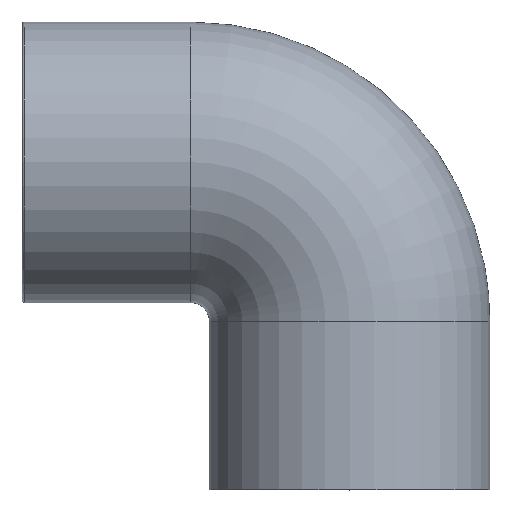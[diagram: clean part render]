
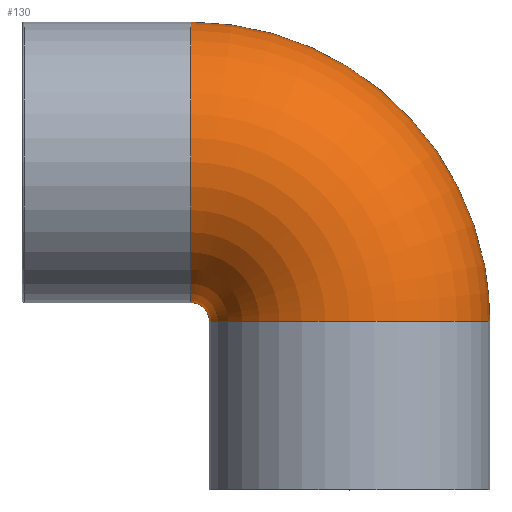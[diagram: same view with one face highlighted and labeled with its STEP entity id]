
A CAD part, top view. The second image highlights one B-rep face of the part: STEP entity #130.
In plain terms, the highlighted toroidal (fillet/blend) face has major radius 17 mm and minor radius 15 mm.
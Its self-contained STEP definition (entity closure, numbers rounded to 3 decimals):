
#28=FACE_BOUND('',#56,.T.);
#39=FACE_OUTER_BOUND('',#55,.T.);
#55=EDGE_LOOP('',(#110));
#56=EDGE_LOOP('',(#111));
#73=CIRCLE('',#150,15.);
#74=CIRCLE('',#151,15.);
#84=VERTEX_POINT('',#225);
#85=VERTEX_POINT('',#227);
#95=EDGE_CURVE('',#84,#84,#73,.T.);
#96=EDGE_CURVE('',#85,#85,#74,.T.);
#110=ORIENTED_EDGE('',*,*,#95,.T.);
#111=ORIENTED_EDGE('',*,*,#96,.T.);
#123=TOROIDAL_SURFACE('',#149,17.,15.);
#130=ADVANCED_FACE('',(#39,#28),#123,.T.);
#149=AXIS2_PLACEMENT_3D('',#224,#184,#185);
#150=AXIS2_PLACEMENT_3D('',#226,#186,#187);
#151=AXIS2_PLACEMENT_3D('',#228,#188,#189);
#184=DIRECTION('center_axis',(0.,0.,-1.));
#185=DIRECTION('ref_axis',(-1.,0.,0.));
#186=DIRECTION('center_axis',(0.,1.,0.));
#187=DIRECTION('ref_axis',(0.,0.,-1.));
#188=DIRECTION('center_axis',(1.,0.,0.));
#189=DIRECTION('ref_axis',(0.,0.,-1.));
#224=CARTESIAN_POINT('Origin',(-17.,-17.,0.));
#225=CARTESIAN_POINT('',(0.,-17.,15.));
#226=CARTESIAN_POINT('Origin',(0.,-17.,0.));
#227=CARTESIAN_POINT('',(-17.,0.,-15.));
#228=CARTESIAN_POINT('Origin',(-17.,0.,0.));
